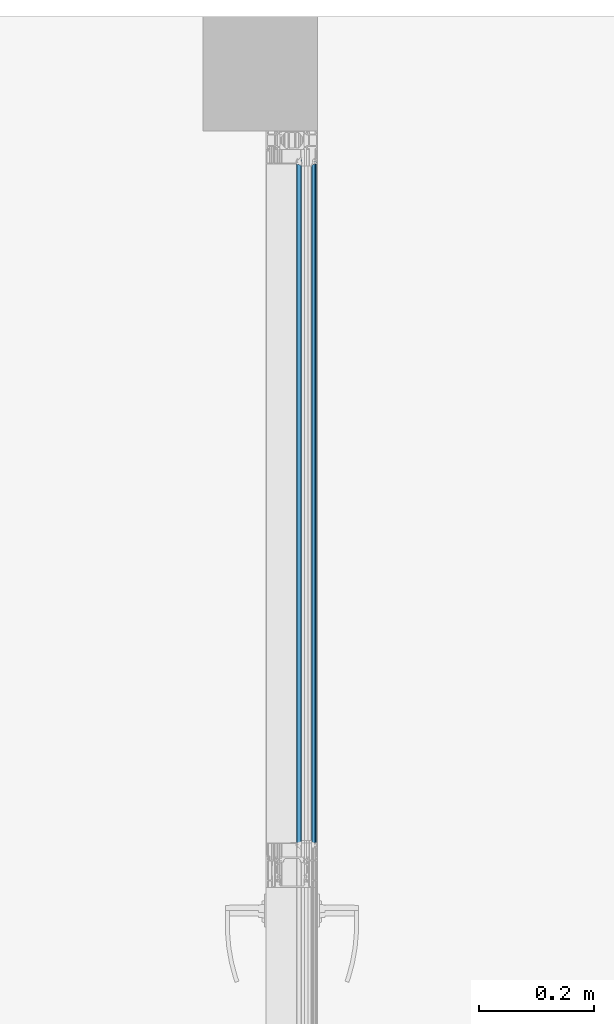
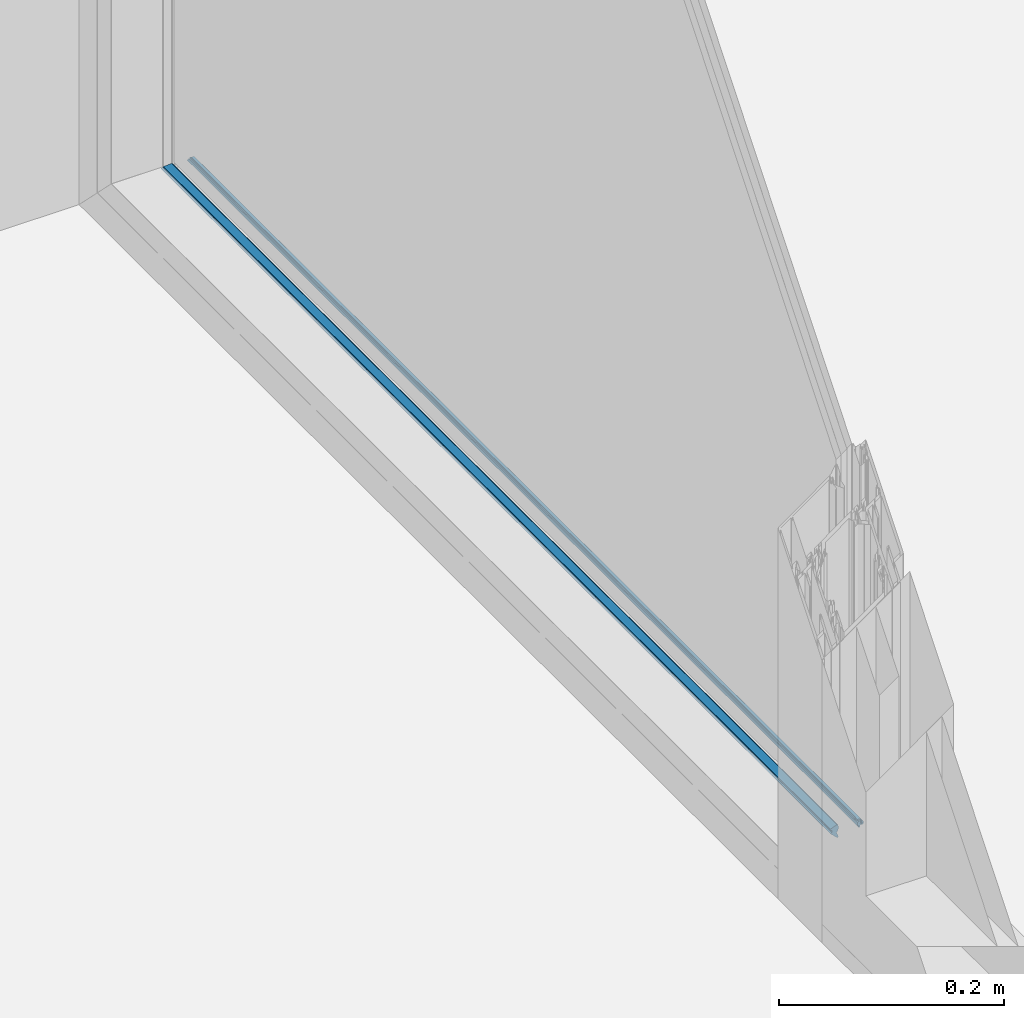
# One storey, part 57 of 89: 1 building element part, 2 elements without a shape of their own.
"""IFC2X3 building model written with IfcOpenShell, lengths in millimetres."""

from ifc_helpers import new_model, entity, si_unit, converted_unit, derived_unit, money_unit, direction, frame, origin_with_axes, place, context, subcontext, project, spatial, faceted_brep, material, type_object, element, aggregate, save


model = new_model("IFC2X3")

# Units and contexts
model_context = context("Model", 3, precision=0.01, world=origin_with_axes(), true_north=direction((0.0, 1.0)))
body_context = subcontext(model_context, "Body", "Model", "MODEL_VIEW")
ifc_project = project(units=[si_unit("LENGTHUNIT", "METRE", prefix="MILLI"), si_unit("AREAUNIT", "SQUARE_METRE"), si_unit("VOLUMEUNIT", "CUBIC_METRE"), converted_unit("PLANEANGLEUNIT", "DEGREE", entity("IfcPlaneAngleMeasure", 0.0174532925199), si_unit("PLANEANGLEUNIT", "RADIAN"), dimensions=[0, 0, 0, 0, 0, 0, 0]), si_unit("SOLIDANGLEUNIT", "STERADIAN"), money_unit("EUR"), converted_unit("TIMEUNIT", "Year", entity("IfcTimeMeasure", 31556926.0), si_unit("TIMEUNIT", "SECOND"), dimensions=[0, 0, 1, 0, 0, 0, 0]), si_unit("MASSUNIT", "GRAM", prefix="KILO"), si_unit("THERMODYNAMICTEMPERATUREUNIT", "DEGREE_CELSIUS"), si_unit("LUMINOUSINTENSITYUNIT", "LUMEN"), si_unit("ENERGYUNIT", "JOULE", prefix="MEGA"), derived_unit("THERMALCONDUCTANCEUNIT", [(si_unit("POWERUNIT", "WATT"), 1), (si_unit("LENGTHUNIT", "METRE"), -1), (si_unit("THERMODYNAMICTEMPERATUREUNIT", "KELVIN"), -1)]), derived_unit("SPECIFICHEATCAPACITYUNIT", [(si_unit("ENERGYUNIT", "JOULE"), 1), (si_unit("MASSUNIT", "GRAM", prefix="KILO"), -1), (si_unit("THERMODYNAMICTEMPERATUREUNIT", "KELVIN"), -1)]), derived_unit("MASSDENSITYUNIT", [(si_unit("MASSUNIT", "GRAM", prefix="KILO"), 1), (si_unit("VOLUMEUNIT", "CUBIC_METRE"), -1)])], contexts=[model_context])

# Site, building, storey
site_placement = place(None, origin_with_axes())
site = spatial("IfcSite", under=ifc_project, at=site_placement, Name="Puškini 31, Narva", CompositionType="ELEMENT")
building_placement = place(site_placement, origin_with_axes())
building = spatial("IfcBuilding", under=site, at=building_placement, Name="Narva Riigigümnaasium", CompositionType="ELEMENT")
storey_placement = place(building_placement, frame((0.0, 0.0, -3300.0), z_axis=(0.0, 0.0, 1.0), x_axis=(1.0, 0.0, 0.0)))
storey = spatial("IfcBuildingStorey", under=building, at=storey_placement, Name="1.korrus -3.3", CompositionType="ELEMENT", Elevation=-3300.0)

# Curtain wall, member, building element part
curtain_wall_type = type_object("IfcCurtainWallType", Name="Curtain Wall Type", PredefinedType="NOTDEFINED")
curtain_wall_placement = place(storey_placement, frame((34855.0104166, 221770.599999, -2.45869391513e-05), z_axis=(0.0, 0.0, 1.0), x_axis=(1.0, 0.0, 0.0)))
curtain_wall = element("IfcCurtainWall", 1, at=curtain_wall_placement, inside=storey, type_object=curtain_wall_type, Name="G-SKLF-08")
member_type = type_object("IfcMemberType", Name="61 x 45", PredefinedType="MULLION")
member_placement = place(curtain_wall_placement, frame((-0.00339019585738, 787.399992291, 2.45869395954e-05), z_axis=(-4.3055573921e-06, 0.999999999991, 0.0), x_axis=(0.0, 0.0, 1.0)))
member = element("IfcMember", 2, at=member_placement, type_object=member_type, Name="G-SKLF-08-raam", ObjectType="MULLION")
aggregate(curtain_wall, [member])
ifc_material = material(Name="Membraan - Veekindel")
building_element_part_placement = place(member_placement, origin_with_axes())
building_element_part = element("IfcBuildingElementPart", 3, at=building_element_part_placement, material=ifc_material, Name="Membraan - Veekindel", context=body_context, shape_type="Brep", body=[
    faceted_brep([(61.0413385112, 34.3890442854, 0.0), (59.5800222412, 34.73794757, 0.0), (59.5800222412, 34.73794757, 1182.41997811), (61.0413385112, 34.3890442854, 1180.95866185), (61.1536677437, 34.1934467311, 0.0), (61.1423164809, 33.9681748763, 0.0), (61.0108941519, 33.784859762, 0.0), (60.7381535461, 33.9217644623, 0.0), (59.8409257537, 34.1343131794, 0.0), (58.2346494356, 34.5489145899, 0.0), (56.9567944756, 35.6067920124, 0.0), (56.2495873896, 37.1074172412, 0.0), (56.1542959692, 37.3107917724, 0.0), (55.9795989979, 37.4519392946, 0.0), (55.7607444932, 37.5023809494, 0.0), (55.1093263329, 37.5023809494, 0.0), (54.8593263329, 37.4353936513, 0.0), (54.676313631, 37.2523809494, 0.0), (54.2721684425, 36.5523809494, 0.0), (54.0891557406, 36.3693682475, 0.0), (53.8391557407, 36.3023809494, 0.0), (51.602145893, 36.3023809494, 0.0), (51.352145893, 36.3693682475, 0.0), (51.1691331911, 36.5523809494, 0.0), (50.7649880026, 37.2523809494, 0.0), (50.5819753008, 37.4353936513, 0.0), (50.3319753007, 37.5023809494, 0.0), (49.2206527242, 37.5023809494, 0.0), (48.9706527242, 37.5693682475, 0.0), (48.7876400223, 37.7523809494, 0.0), (48.7206527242, 38.0023809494, 0.0), (48.7206527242, 39.1999494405, 0.0), (50.10004, 39.1999494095, 0.0), (50.1670287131, 38.9499497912, 0.0), (50.3500424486, 38.7669381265, 0.0), (50.6000428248, 38.699952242, 0.0), (50.8500424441, 38.7669409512, 0.0), (51.0330541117, 38.9499546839, 0.0), (51.10004, 39.1999550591, 0.0), (51.10004, 40.4999366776, 0.0), (51.0598476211, 40.6499366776, 0.0), (50.95004, 40.7597442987, 0.0), (50.80004, 40.7999366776, 0.0), (50.7000457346, 40.7999366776, 0.0), (50.5334025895, 40.8504763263, 0.0), (50.4229059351, 40.9850671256, 0.0), (50.4057850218, 41.1583618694, 0.0), (50.4878083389, 41.3119729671, 0.0), (51.5281601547, 42.3533311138, 0.0), (51.6904310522, 42.4618421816, 0.0), (51.8818844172, 42.4999486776, 0.0), (53.517932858, 42.4999486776, 0.0), (53.7093558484, 42.4618547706, 0.0), (53.8716106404, 42.3533776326, 0.0), (54.9122350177, 41.3120206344, 0.0), (54.9942836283, 41.1584047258, 0.0), (54.9771753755, 40.9850924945, 0.0), (54.866675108, 40.850483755, 0.0), (54.7000173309, 40.7999366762, 0.0), (54.6000210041, 40.7999366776, 0.0), (54.4500210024, 40.7597443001, 0.0), (54.3402133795, 40.6499366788, 0.0), (54.300021, 40.4999366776, 0.0), (54.300021, 39.1999606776, 0.0), (54.3670082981, 38.9499606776, 0.0), (54.5500210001, 38.7669479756, 0.0), (54.8000210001, 38.6999606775, 0.0), (55.0500210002, 38.7669479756, 0.0), (55.2330337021, 38.9499606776, 0.0), (55.3000210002, 39.1999606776, 0.0), (57.3000022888, 39.1999494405, 0.0), (57.3000022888, 39.9999846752, 0.0), (57.5000161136, 39.946391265, 0.0), (57.6464370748, 39.799971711, 0.0), (57.7000324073, 39.5999584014, 0.0), (57.9693613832, 36.5265882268, 0.0), (58.4755028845, 35.3628499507, 0.0), (53.5000340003, 40.7999553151, 0.0), (53.4330491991, 41.0499459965, 0.0), (53.2500433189, 41.2329518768, 0.0), (53.0000526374, 41.299936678, 0.0), (52.4000083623, 41.299936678, 0.0), (52.150017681, 41.2329518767, 0.0), (51.9670118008, 41.0499459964, 0.0), (51.9000269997, 40.799955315, 0.0), (51.9000269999, 39.6999268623, 0.0), (51.9670129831, 39.4499317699, 0.0), (52.1500220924, 39.2669226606, 0.0), (52.4000171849, 39.1999366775, 0.0), (53.0000438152, 39.1999366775, 0.0), (53.2500389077, 39.2669226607, 0.0), (53.433048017, 39.44993177, 0.0), (58.4755028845, 35.3628499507, 1183.52449746), (57.9693613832, 36.5265882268, 1184.03063896), (57.7000324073, 39.5999584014, 1184.29996793), (57.6464370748, 39.799971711, 1184.35356327), (57.5000161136, 39.946391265, 1184.49998423), (57.3000022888, 39.9999846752, 1184.69999805), (57.3000022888, 39.1999494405, 1184.69999805), (55.3000210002, 39.1999606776, 1186.69997933), (55.2330337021, 38.9499606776, 1186.76696662), (55.0500210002, 38.7669479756, 1186.94997932), (54.8000210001, 38.6999606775, 1187.19997932), (54.5500210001, 38.7669479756, 1187.44997932), (54.3670082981, 38.9499606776, 1187.63299202), (54.300021, 39.1999606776, 1187.69997932), (54.300021, 40.4999366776, 1187.69997932), (54.3402133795, 40.6499366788, 1187.65978694), (54.4500210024, 40.7597443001, 1187.54997932), (54.6000210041, 40.7999366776, 1187.39997932), (54.7000173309, 40.7999366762, 1187.29998299), (54.866675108, 40.850483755, 1187.13332522), (54.9771753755, 40.9850924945, 1187.02282495), (54.9942836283, 41.1584047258, 1187.0057167), (54.9122350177, 41.3120206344, 1187.08776531), (53.8716106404, 42.3533776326, 1188.12838968), (53.7093558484, 42.4618547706, 1188.29064447), (53.517932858, 42.4999486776, 1188.48206746), (51.8818844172, 42.4999486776, 1190.11811589), (51.6904310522, 42.4618421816, 1190.30956925), (51.5281601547, 42.3533311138, 1190.47184015), (50.4878083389, 41.3119729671, 1191.51219196), (50.4057850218, 41.1583618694, 1191.59421528), (50.4229059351, 40.9850671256, 1191.57709436), (50.5334025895, 40.8504763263, 1191.46659771), (50.7000457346, 40.7999366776, 1191.29995456), (50.80004, 40.7999366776, 1191.1999603), (50.95004, 40.7597442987, 1191.0499603), (51.0598476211, 40.6499366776, 1190.94015268), (51.10004, 40.4999366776, 1190.8999603), (51.10004, 39.1999550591, 1190.8999603), (51.0330541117, 38.9499546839, 1190.96694619), (50.8500424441, 38.7669409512, 1191.14995786), (50.6000428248, 38.699952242, 1191.39995747), (50.3500424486, 38.7669381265, 1191.64995785), (50.1670287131, 38.9499497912, 1191.83297158), (50.10004, 39.1999494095, 1191.8999603), (48.7206527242, 39.1999494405, 1193.27934756), (48.7206527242, 38.0023809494, 1193.27934756), (48.7876400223, 37.7523809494, 1193.21236027), (48.9706527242, 37.5693682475, 1193.02934756), (49.2206527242, 37.5023809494, 1192.77934757), (50.3319753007, 37.5023809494, 1191.668025), (50.5819753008, 37.4353936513, 1191.418025), (50.7649880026, 37.2523809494, 1191.2350123), (51.1691331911, 36.5523809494, 1190.83086711), (51.352145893, 36.3693682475, 1190.64785441), (51.602145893, 36.3023809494, 1190.39785441), (53.8391557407, 36.3023809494, 1188.16084458), (54.0891557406, 36.3693682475, 1187.91084458), (54.2721684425, 36.5523809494, 1187.72783188), (54.676313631, 37.2523809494, 1187.32368669), (54.8593263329, 37.4353936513, 1187.14067399), (55.1093263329, 37.5023809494, 1186.89067399), (55.7607444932, 37.5023809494, 1186.23925584), (55.9795989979, 37.4519392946, 1186.02040133), (56.1542959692, 37.3107917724, 1185.84570436), (56.2495873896, 37.1074172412, 1185.75041294), (56.9567944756, 35.6067920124, 1185.04320586), (58.2346494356, 34.5489145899, 1183.76535091), (59.8409257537, 34.1343131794, 1182.1590746), (60.7381535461, 33.9217644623, 1181.26184681), (61.0108941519, 33.784859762, 1180.98910621), (61.1423164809, 33.9681748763, 1180.85768388), (61.1536677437, 34.1934467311, 1180.84633262), (53.5000340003, 40.7999553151, 1188.49996632), (53.433048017, 39.44993177, 1188.5669523), (53.2500389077, 39.2669226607, 1188.74996141), (53.0000438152, 39.1999366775, 1188.9999565), (52.4000171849, 39.1999366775, 1189.59998312), (52.1500220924, 39.2669226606, 1189.84997822), (51.9670129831, 39.4499317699, 1190.03298732), (51.9000269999, 39.6999268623, 1190.09997331), (51.9000269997, 40.799955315, 1190.09997331), (51.9670118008, 41.0499459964, 1190.03298851), (52.150017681, 41.2329518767, 1189.84998263), (52.4000083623, 41.299936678, 1189.59999195), (53.0000526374, 41.299936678, 1188.99994768), (53.2500433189, 41.2329518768, 1188.749957), (53.4330491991, 41.0499459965, 1188.56695112)], [[[0, 1, 2, 3]], [[0, 4, 5, 6, 7, 8, 9, 10, 11, 12, 13, 14, 15, 16, 17, 18, 19, 20, 21, 22, 23, 24, 25, 26, 27, 28, 29, 30, 31, 32, 33, 34, 35, 36, 37, 38, 39, 40, 41, 42, 43, 44, 45, 46, 47, 48, 49, 50, 51, 52, 53, 54, 55, 56, 57, 58, 59, 60, 61, 62, 63, 64, 65, 66, 67, 68, 69, 70, 71, 72, 73, 74, 75, 76, 1], [77, 78, 79, 80, 81, 82, 83, 84, 85, 86, 87, 88, 89, 90, 91]], [[1, 76, 92, 2]], [[3, 2, 92, 93, 94, 95, 96, 97, 98, 99, 100, 101, 102, 103, 104, 105, 106, 107, 108, 109, 110, 111, 112, 113, 114, 115, 116, 117, 118, 119, 120, 121, 122, 123, 124, 125, 126, 127, 128, 129, 130, 131, 132, 133, 134, 135, 136, 137, 138, 139, 140, 141, 142, 143, 144, 145, 146, 147, 148, 149, 150, 151, 152, 153, 154, 155, 156, 157, 158, 159, 160, 161, 162, 163, 164], [165, 166, 167, 168, 169, 170, 171, 172, 173, 174, 175, 176, 177, 178, 179]], [[4, 0, 3, 164]], [[5, 4, 164, 163]], [[6, 5, 163, 162]], [[7, 6, 162, 161]], [[8, 7, 161, 160]], [[9, 8, 160, 159]], [[10, 9, 159, 158]], [[11, 10, 158, 157]], [[12, 11, 157, 156]], [[13, 12, 156, 155]], [[14, 13, 155, 154]], [[15, 14, 154, 153]], [[16, 15, 153, 152]], [[17, 16, 152, 151]], [[18, 17, 151, 150]], [[19, 18, 150, 149]], [[20, 19, 149, 148]], [[21, 20, 148, 147]], [[22, 21, 147, 146]], [[23, 22, 146, 145]], [[24, 23, 145, 144]], [[25, 24, 144, 143]], [[26, 25, 143, 142]], [[27, 26, 142, 141]], [[28, 27, 141, 140]], [[29, 28, 140, 139]], [[30, 29, 139, 138]], [[31, 30, 138, 137]], [[32, 31, 137, 136]], [[33, 32, 136, 135]], [[34, 33, 135, 134]], [[35, 34, 134, 133]], [[36, 35, 133, 132]], [[37, 36, 132, 131]], [[38, 37, 131, 130]], [[39, 38, 130, 129]], [[40, 39, 129, 128]], [[41, 40, 128, 127]], [[42, 41, 127, 126]], [[43, 42, 126, 125]], [[44, 43, 125, 124]], [[45, 44, 124, 123]], [[46, 45, 123, 122]], [[47, 46, 122, 121]], [[48, 47, 121, 120]], [[49, 48, 120, 119]], [[50, 49, 119, 118]], [[51, 50, 118, 117]], [[52, 51, 117, 116]], [[53, 52, 116, 115]], [[54, 53, 115, 114]], [[55, 54, 114, 113]], [[56, 55, 113, 112]], [[57, 56, 112, 111]], [[58, 57, 111, 110]], [[59, 58, 110, 109]], [[60, 59, 109, 108]], [[61, 60, 108, 107]], [[62, 61, 107, 106]], [[63, 62, 106, 105]], [[64, 63, 105, 104]], [[65, 64, 104, 103]], [[66, 65, 103, 102]], [[67, 66, 102, 101]], [[68, 67, 101, 100]], [[69, 68, 100, 99]], [[70, 69, 99, 98]], [[71, 70, 98, 97]], [[72, 71, 97, 96]], [[73, 72, 96, 95]], [[74, 73, 95, 94]], [[75, 74, 94, 93]], [[76, 75, 93, 92]], [[78, 77, 165, 179]], [[79, 78, 179, 178]], [[80, 79, 178, 177]], [[81, 80, 177, 176]], [[82, 81, 176, 175]], [[83, 82, 175, 174]], [[84, 83, 174, 173]], [[85, 84, 173, 172]], [[86, 85, 172, 171]], [[87, 86, 171, 170]], [[88, 87, 170, 169]], [[89, 88, 169, 168]], [[90, 89, 168, 167]], [[91, 90, 167, 166]], [[77, 91, 166, 165]]]),
    faceted_brep([(59.0307115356, 16.554149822, 0.0), (55.9926715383, 16.8063498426, 0.0), (55.9926715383, 16.8063498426, 1186.00732879), (59.0307115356, 16.554149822, 1182.96928881), (59.3884652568, 16.1092618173, 0.0), (59.5001582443, 15.5494067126, 0.0), (59.3405112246, 15.0012955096, 0.0), (57.5418652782, 10.0035930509, 0.0), (57.2632233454, 8.46932121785, 0.0), (57.1824204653, 8.36745448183, 0.0), (57.0661058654, 8.3093438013, 0.0), (56.9361285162, 8.30590490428, 0.0), (55.5361285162, 8.57803733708, 0.0), (55.4168250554, 8.62997353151, 0.0), (55.3307332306, 8.72753828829, 0.0), (55.2940485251, 8.85237785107, 0.0), (55.4099827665, 9.81272116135, 0.0), (55.3838261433, 9.9780831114, 0.0), (55.2731258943, 10.1036784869, 0.0), (55.1123574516, 10.1503930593, 0.0), (53.0580290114, 10.1503930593, 0.0), (52.8859560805, 10.0961386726, 0.0), (52.7761212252, 9.95299910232, 0.0), (52.3556584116, 8.79778701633, 0.0), (52.2574645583, 8.66326410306, 0.0), (52.1026310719, 8.60190419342, 0.0), (51.938943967, 8.6326446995, 0.0), (51.8169217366, 8.74599822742, 0.0), (45.6142070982, 15.4144760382, 0.0), (45.3418968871, 15.7688623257, 0.0), (45.3195226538, 16.2152275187, 0.0), (45.3889077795, 16.3899097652, 0.0), (45.6241929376, 16.6482027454, 0.0), (45.950966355, 16.7718696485, 0.0), (46.298307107, 16.7340705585, 0.0), (50.5536994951, 15.2121179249, 0.0), (50.8437237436, 15.0307134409, 0.0), (51.0558924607, 14.9074036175, 0.0), (51.3011765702, 14.8998814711, 0.0), (51.5205025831, 15.0099586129, 0.0), (53.1225200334, 16.3483062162, 0.0), (53.7899070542, 16.6230039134, 0.0), (53.7899070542, 16.6230039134, 1188.21009326), (53.1225200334, 16.3483062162, 1188.87748028), (51.5205025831, 15.0099586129, 1190.47949772), (51.3011765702, 14.8998814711, 1190.69882373), (51.0558924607, 14.9074036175, 1190.94410784), (50.8437237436, 15.0307134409, 1191.15627656), (50.5536994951, 15.2121179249, 1191.4463008), (46.298307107, 16.7340705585, 1195.70169317), (45.950966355, 16.7718696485, 1196.04903392), (45.6241929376, 16.6482027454, 1196.37580733), (45.3889077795, 16.3899097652, 1196.61109249), (45.3195226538, 16.2152275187, 1196.68047761), (45.3418968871, 15.7688623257, 1196.65810338), (45.6142070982, 15.4144760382, 1196.38579317), (51.8169217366, 8.74599822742, 1190.18307857), (51.938943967, 8.6326446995, 1190.06105634), (52.1026310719, 8.60190419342, 1189.89736924), (52.2574645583, 8.66326410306, 1189.74253575), (52.3556584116, 8.79778701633, 1189.6443419), (52.7761212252, 9.95299910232, 1189.22387909), (52.8859560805, 10.0961386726, 1189.11404423), (53.0580290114, 10.1503930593, 1188.9419713), (55.1123574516, 10.1503930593, 1186.88764287), (55.2731258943, 10.1036784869, 1186.72687443), (55.3838261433, 9.9780831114, 1186.61617418), (55.4099827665, 9.81272116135, 1186.59001756), (55.2940485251, 8.85237785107, 1186.7059518), (55.3307332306, 8.72753828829, 1186.6692671), (55.4168250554, 8.62997353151, 1186.58317527), (55.5361285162, 8.57803733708, 1186.46387181), (56.9361285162, 8.30590490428, 1185.06387182), (57.0661058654, 8.3093438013, 1184.93389447), (57.1824204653, 8.36745448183, 1184.81757987), (57.2632233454, 8.46932121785, 1184.73677699), (57.5418652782, 10.0035930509, 1184.45813506), (59.3405112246, 15.0012955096, 1182.65948913), (59.5001582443, 15.5494067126, 1182.49984211), (59.3884652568, 16.1092618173, 1182.61153509)], [[[0, 1, 2, 3]], [[0, 4, 5, 6, 7, 8, 9, 10, 11, 12, 13, 14, 15, 16, 17, 18, 19, 20, 21, 22, 23, 24, 25, 26, 27, 28, 29, 30, 31, 32, 33, 34, 35, 36, 37, 38, 39, 40, 41, 1]], [[1, 41, 42, 2]], [[3, 2, 42, 43, 44, 45, 46, 47, 48, 49, 50, 51, 52, 53, 54, 55, 56, 57, 58, 59, 60, 61, 62, 63, 64, 65, 66, 67, 68, 69, 70, 71, 72, 73, 74, 75, 76, 77, 78, 79]], [[4, 0, 3, 79]], [[5, 4, 79, 78]], [[6, 5, 78, 77]], [[7, 6, 77, 76]], [[8, 7, 76, 75]], [[9, 8, 75, 74]], [[10, 9, 74, 73]], [[11, 10, 73, 72]], [[12, 11, 72, 71]], [[13, 12, 71, 70]], [[14, 13, 70, 69]], [[15, 14, 69, 68]], [[16, 15, 68, 67]], [[17, 16, 67, 66]], [[18, 17, 66, 65]], [[19, 18, 65, 64]], [[20, 19, 64, 63]], [[21, 20, 63, 62]], [[22, 21, 62, 61]], [[23, 22, 61, 60]], [[24, 23, 60, 59]], [[25, 24, 59, 58]], [[26, 25, 58, 57]], [[27, 26, 57, 56]], [[28, 27, 56, 55]], [[29, 28, 55, 54]], [[30, 29, 54, 53]], [[31, 30, 53, 52]], [[32, 31, 52, 51]], [[33, 32, 51, 50]], [[34, 33, 50, 49]], [[35, 34, 49, 48]], [[36, 35, 48, 47]], [[37, 36, 47, 46]], [[38, 37, 46, 45]], [[39, 38, 45, 44]], [[40, 39, 44, 43]], [[41, 40, 43, 42]]]),
])
aggregate(member, [building_element_part])

save(model, "model.ifc")
